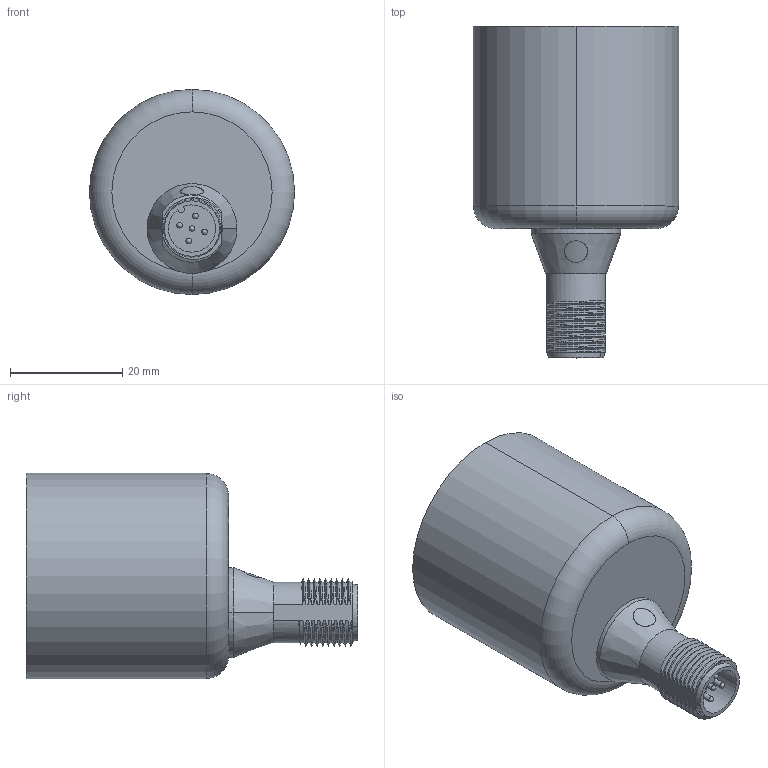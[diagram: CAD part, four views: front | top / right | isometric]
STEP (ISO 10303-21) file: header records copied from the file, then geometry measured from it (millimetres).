
FILE_DESCRIPTION (( 'STEP AP203' ), '1' );
FILE_NAME ('Drawing-MC-3-CA-360-SPS-12BNNN-N-PAM-L.STEP', '2013-05-22T08:46:47', ( '' ), ( '' ), 'SwSTEP 2.0', 'SolidWorks 2006104', '' );
FILE_SCHEMA (( 'CONFIG_CONTROL_DESIGN' ));
Length unit declared in the file: millimetre
Products named in the file (1): Drawing-MC-3-CA-360-SPS-12BNNN-N-PAM-L
Bounding box: 36.5 x 59 x 36.5 mm (x, y, z)
Volume: 5875 mm3; surface area: 15014 mm2
Topology: 4 solids, 4 shells, 170 faces, 508 edges, 348 vertices
Faces by surface type: cylinder 77, bspline 43, plane 23, torus 14, sphere 7, cone 6
Entity records: 8329 total; most frequent: CARTESIAN_POINT 4448, ORIENTED_EDGE 968, DIRECTION 620, EDGE_CURVE 484, VERTEX_POINT 336, AXIS2_PLACEMENT_3D 250, EDGE_LOOP 188, ADVANCED_FACE 170
